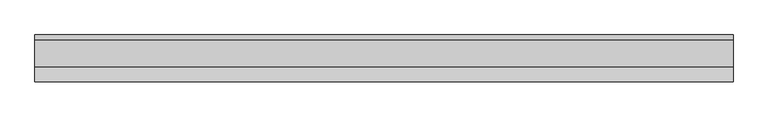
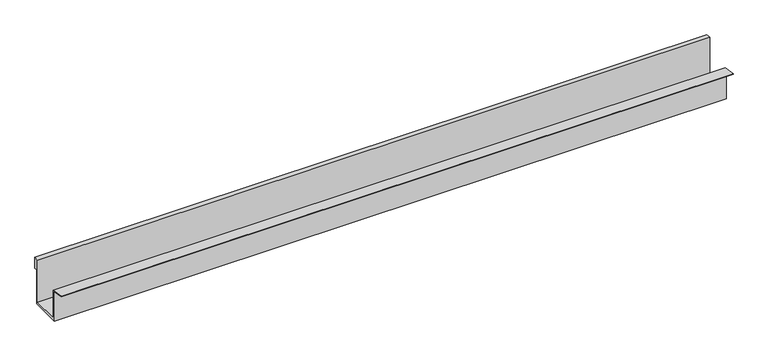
"""IFC4 building model written with IfcOpenShell, lengths in millimetres: proxy geometry, Modelos genéricos 1 : Modelos genéricos 1."""

import ifcopenshell
import ifcopenshell.guid

model = None  # the IFC model being written
_history = None  # IfcOwnerHistory: only IFC2X3 demands one
_inside = {}  # id of a spatial element -> (the spatial element, [elements in it])
_under = {}  # id of a project, library or spatial element -> (it, [spatial elements below it])
_declared = {}  # id of a project -> (the project, [libraries it declares])
_typed = {}  # id of a type object -> (the type object, [elements of that type])
_made_of = {}  # id of a material, layer set ... -> (it, [elements and type objects made of it])


def new_model(schema):
    """Start an empty IFC model of exactly this schema.

    Asked for "IFC4X3", IfcOpenShell would pick the latest addendum, in which some entities
    have other attributes; the version numbers below select the first issue.
    IFC2X3 requires an IfcOwnerHistory on every rooted entity: one is made here for all.
    """
    global model, _history
    if schema == "IFC4X3":
        model = ifcopenshell.file(schema_version=(4, 3, 0, 0))
    else:
        model = ifcopenshell.file(schema=schema)
    _inside.clear()
    _under.clear()
    _declared.clear()
    _typed.clear()
    _made_of.clear()
    _history = None
    if model.schema == "IFC2X3":
        org = make("IfcOrganization", Name="unknown")
        user = make(
            "IfcPersonAndOrganization",
            ThePerson=make("IfcPerson", FamilyName="unknown"),
            TheOrganization=org,
        )
        app = make(
            "IfcApplication",
            ApplicationDeveloper=org,
            Version="unknown",
            ApplicationFullName="unknown",
            ApplicationIdentifier="unknown",
        )
        _history = make(
            "IfcOwnerHistory",
            OwningUser=user,
            OwningApplication=app,
            ChangeAction="ADDED",
            CreationDate=0,
        )
    return model


def make(cls, **values):
    """One entity of the class cls with the attributes given. An attribute that is None is left unset."""
    return model.create_entity(
        cls, **{name: value for name, value in values.items() if value is not None}
    )


def rooted(cls, **values):
    """An entity with a GlobalId (a new one), such as an element, a storey or a relation."""
    return make(cls, GlobalId=ifcopenshell.guid.new(), OwnerHistory=_history, **values)


def si_unit(unit_type, name, prefix=None):
    """IfcSIUnit, for example si_unit("LENGTHUNIT", "METRE", prefix="MILLI")."""
    return make("IfcSIUnit", UnitType=unit_type, Prefix=prefix, Name=name)


def assignment(units):
    """IfcUnitAssignment: the units of a project."""
    return None if units is None else make("IfcUnitAssignment", Units=units)


def point(xyz):
    """IfcCartesianPoint."""
    return None if xyz is None else make("IfcCartesianPoint", Coordinates=xyz)


def direction(xyz):
    """IfcDirection."""
    return None if xyz is None else make("IfcDirection", DirectionRatios=xyz)


def frame(location, z_axis=None, x_axis=None):
    """IfcAxis2Placement3D, a coordinate frame: its origin and axes. An axis left out is left unset."""
    return make(
        "IfcAxis2Placement3D",
        Location=point(location),
        Axis=direction(z_axis),
        RefDirection=direction(x_axis),
    )


def origin():
    """The frame at (0, 0, 0) with its axes left unset."""
    return frame((0.0, 0.0, 0.0))


def place(relative_to, where):
    """IfcLocalPlacement: puts the frame where relative to a parent placement (None: the world)."""
    return make(
        "IfcLocalPlacement", PlacementRelTo=relative_to, RelativePlacement=where
    )


def context(
    kind, dimensions, precision=None, world=None, true_north=None, identifier=None
):
    """IfcGeometricRepresentationContext, for example the 3D "Model" context."""
    return make(
        "IfcGeometricRepresentationContext",
        ContextIdentifier=identifier,
        ContextType=kind,
        CoordinateSpaceDimension=dimensions,
        Precision=precision,
        WorldCoordinateSystem=world,
        TrueNorth=true_north,
    )


def project(units=None, contexts=None):
    """IfcProject with its units and contexts."""
    return rooted(
        "IfcProject",
        Name="project",
        RepresentationContexts=contexts,
        UnitsInContext=assignment(units),
    )


def spatial(cls, under=None, at=None, **own):
    """A site, building, storey or space (cls), placed at a placement, below another one or the project."""
    s = rooted(cls, ObjectPlacement=at, **own)
    if under is not None:
        _under.setdefault(under.id(), (under, []))[1].append(s)
    return s


def polyline(points):
    """IfcPolyline through the points."""
    return make("IfcPolyline", Points=[point(p) for p in points])


def outline(outer, holes=None, kind="AREA"):
    """IfcArbitraryClosedProfileDef: a profile drawn as a closed curve; with holes, ...WithVoids."""
    if holes is None:
        return make("IfcArbitraryClosedProfileDef", ProfileType=kind, OuterCurve=outer)
    return make(
        "IfcArbitraryProfileDefWithVoids",
        ProfileType=kind,
        OuterCurve=outer,
        InnerCurves=holes,
    )


def extrude(swept, where, along, depth):
    """IfcExtrudedAreaSolid: the profile swept, set in the frame where, extruded along a direction by depth."""
    return make(
        "IfcExtrudedAreaSolid",
        SweptArea=swept,
        Position=where,
        ExtrudedDirection=direction(along),
        Depth=depth,
    )


def shape(context_of_items, identifier, shape_type, items):
    """IfcShapeRepresentation: the items that make up one representation, for example the "Body"."""
    return make(
        "IfcShapeRepresentation",
        ContextOfItems=context_of_items,
        RepresentationIdentifier=identifier,
        RepresentationType=shape_type,
        Items=items,
    )


def source(mapping_origin, context_of_items, identifier, shape_type, items):
    """IfcRepresentationMap: a shape defined once, which mapped items show again and again."""
    return make(
        "IfcRepresentationMap",
        MappingOrigin=mapping_origin,
        MappedRepresentation=shape(context_of_items, identifier, shape_type, items),
    )


def transform(
    local_origin,
    x_axis=None,
    y_axis=None,
    z_axis=None,
    scale=None,
    scale2=None,
    scale3=None,
    uniform=True,
):
    """IfcCartesianTransformationOperator3D, or its non-uniform kind. x_axis, y_axis, z_axis: its Axis1, 2, 3."""
    if uniform:
        return make(
            "IfcCartesianTransformationOperator3D",
            Axis1=direction(x_axis),
            Axis2=direction(y_axis),
            LocalOrigin=point(local_origin),
            Scale=scale,
            Axis3=direction(z_axis),
        )
    return make(
        "IfcCartesianTransformationOperator3DnonUniform",
        Axis1=direction(x_axis),
        Axis2=direction(y_axis),
        LocalOrigin=point(local_origin),
        Scale=scale,
        Axis3=direction(z_axis),
        Scale2=scale2,
        Scale3=scale3,
    )


def mapped(mapping_source, mapping_target):
    """IfcMappedItem: shows the shape of a source again, moved by a transform."""
    return make(
        "IfcMappedItem", MappingSource=mapping_source, MappingTarget=mapping_target
    )


def made_of(thing, what):
    """Note that an element or type object is made of a material, layer set ...; save() writes the relation."""
    if what is not None:
        _made_of.setdefault(what.id(), (what, []))[1].append(thing)
    return thing


def element(
    cls,
    number,
    at=None,
    inside=None,
    cuts=None,
    type_object=None,
    material=None,
    context=None,
    identifier="Body",
    shape_type=None,
    held_by="IfcProductDefinitionShape",
    body=None,
    shapes=None,
    **own,
):
    """One element of the class cls, such as IfcWall. Its Tag is "e" and its number.

    at: its placement. inside: the storey or other place that contains it. cuts: it is an
    opening in that element (IfcRelVoidsElement). A single representation is given by context,
    identifier, shape_type and body (its items); several are given by shapes. held_by: the class
    of the entity that holds the representations. save() writes the other relations.
    """
    e = rooted(cls, Tag="e%d" % number, ObjectPlacement=at, **own)
    if body is not None:
        shapes = [shape(context, identifier, shape_type, body)]
    if shapes is not None:
        e.Representation = make(held_by, Representations=shapes)
    if inside is not None:
        _inside.setdefault(inside.id(), (inside, []))[1].append(e)
    if cuts is not None:
        rooted(
            "IfcRelVoidsElement", RelatingBuildingElement=cuts, RelatedOpeningElement=e
        )
    if type_object is not None:
        _typed.setdefault(type_object.id(), (type_object, []))[1].append(e)
    return made_of(e, material)


def aggregate(whole, parts):
    """IfcRelAggregates: a whole, such as a stair, and the parts it consists of."""
    return rooted("IfcRelAggregates", RelatingObject=whole, RelatedObjects=parts)


def save(model, path):
    """Write the relations noted so far, then the file.

    IfcRelAggregates (storeys below a building ...), IfcRelContainedInSpatialStructure (elements
    in a storey), IfcRelDefinesByType, IfcRelAssociatesMaterial and IfcRelDeclares: one each for
    every whole, place, type object, material and project.
    """
    for whole, parts in _under.values():
        aggregate(whole, parts)
    for where, things in _inside.values():
        rooted(
            "IfcRelContainedInSpatialStructure",
            RelatedElements=things,
            RelatingStructure=where,
        )
    for kind, things in _typed.values():
        rooted("IfcRelDefinesByType", RelatedObjects=things, RelatingType=kind)
    for what, things in _made_of.values():
        rooted("IfcRelAssociatesMaterial", RelatedObjects=things, RelatingMaterial=what)
    for by, libraries in _declared.values():
        rooted("IfcRelDeclares", RelatingContext=by, RelatedDefinitions=libraries)
    model.write(path)


def generic_models_f777319b(model_context):
    return source(origin(), model_context, "Body", "SweptSolid", [
        extrude(outline(polyline([(4806.0062871, 108970.0), (4702.389243, 108985.5425566), (4702.389243, 108988.5425566), (4826.0062871, 108970.0), (4826.0062871, 108710.0), (5066.0062871, 108710.0), (5066.0062871, 109110.0), (5106.0062871, 109110.0), (5106.0062871, 109010.0), (5076.0062871, 109010.0), (5076.0062871, 108690.0), (4806.0062871, 108690.0), (4806.0062871, 108970.0)])), frame((-15941.1920746, 0.0, 0.0), z_axis=(1.0, 0.0, 0.0), x_axis=(0.0, 1.0, 0.0)), (0.0, 0.0, 1.0), 6000.0),
    ])


if __name__ == "__main__":
    model = new_model("IFC4")
    model_context = context("Model", 3, world=origin())
    ifc_project = project(units=[si_unit("LENGTHUNIT", "METRE", prefix="MILLI")], contexts=[model_context])
    site = spatial("IfcSite", under=ifc_project)
    building = spatial("IfcBuilding", under=site)
    placement = place(None, origin())
    generic_models_shape = generic_models_f777319b(model_context)
    element("IfcBuildingElementProxy", 1, Name="Modelos genéricos 1 : Modelos genéricos 1", ObjectType="Modelos genéricos 1 : Modelos genéricos 1", at=placement, inside=building, context=model_context, shape_type="MappedRepresentation", body=[
        mapped(generic_models_shape, transform((0.0, 0.0, 0.0), x_axis=(1.0, 0.0, 0.0), y_axis=(0.0, 1.0, 0.0), z_axis=(0.0, 0.0, 1.0))),
    ])
    save(model, "model.ifc")
